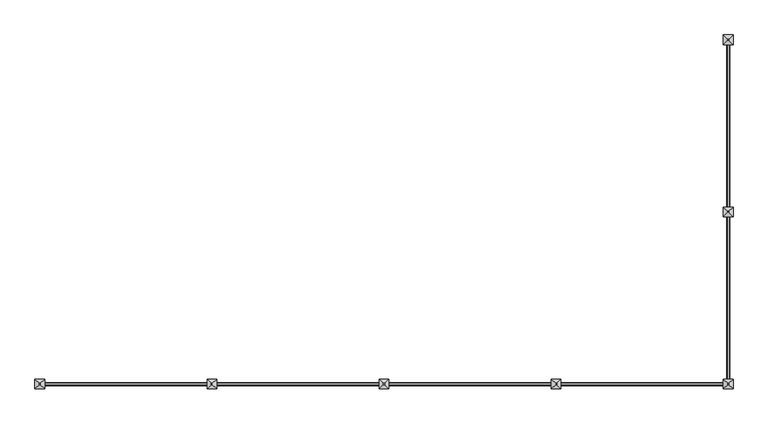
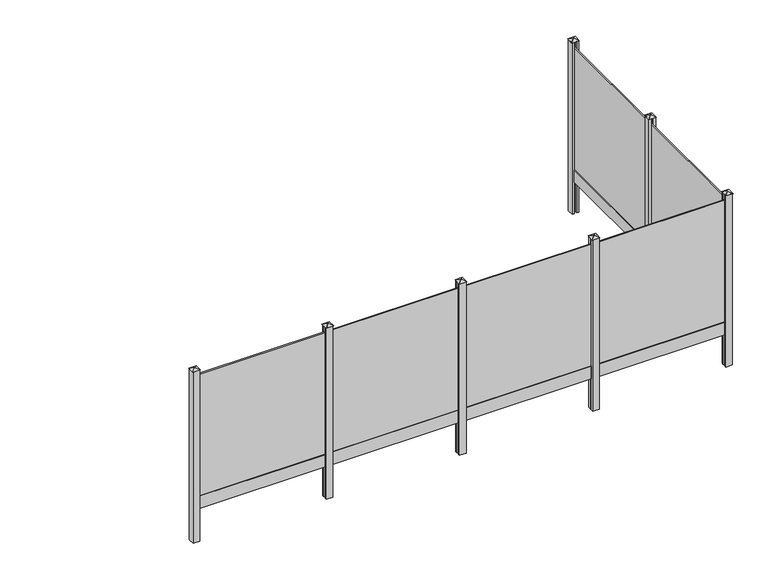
"""IFC4 building model written with IfcOpenShell, lengths in millimetres: railing geometry, Mehat - Railing - Plaque de Soubassement - Pour clôture composite - 197x20x3.5/2.3 cm."""

from ifc_helpers import new_model, si_unit, frame, origin, origin_with_axes, place, context, project, spatial, polyline, outline, extrude, faceted_brep, source, transform, mapped, element, save


def railing_0f99474d(model_context):
    return source(origin(), model_context, "Body", "SolidModel", [
        extrude(outline(polyline([(-27103.7483484, 8642.5056064), (-27120.7483484, 8642.5056064), (-27120.7483484, 10612.5056064), (-27103.7483484, 10612.5056064), (-27103.7483484, 8642.5056064)])), frame((0.0, 0.0, 200.0), z_axis=(0.0, 0.0, 1.0), x_axis=(1.0, 0.0, 0.0)), (0.0, 0.0, 1.0), 1950.0),
        extrude(outline(polyline([(-27129.7483484, 10612.5056064), (-27106.7483484, 10612.5056064), (-27094.7483484, 10587.5056064), (-27094.7483484, 8667.5056064), (-27106.7483484, 8642.5056064), (-27129.7483484, 8642.5056064), (-27129.7483484, 10612.5056064)])), origin_with_axes(), (0.0, 0.0, 1.0), 200.0),
        extrude(outline(polyline([(-27062.2483484, 8567.5056064), (-27094.7483484, 8567.5056064), (-27094.7483484, 8592.5056064), (-27129.7483484, 8592.5056064), (-27129.7483484, 8567.5056064), (-27162.2483484, 8567.5056064), (-27162.2483484, 8667.5056064), (-27129.7483484, 8667.5056064), (-27129.7483484, 8642.5056064), (-27094.7483484, 8642.5056064), (-27094.7483484, 8667.5056064), (-27062.2483484, 8667.5056064), (-27062.2483484, 8567.5056064)])), frame((0.0, 0.0, -500.0), z_axis=(0.0, 0.0, 1.0), x_axis=(1.0, 0.0, 0.0)), (0.0, 0.0, 1.0), 2750.0),
        faceted_brep([(-27118.6528945, 8623.8556064, 2275.4), (-27118.6528945, 8611.1556064, 2275.4), (-27105.9528945, 8611.1556064, 2275.4), (-27105.9528945, 8623.8556064, 2275.4), (-27168.5983484, 8673.8556064, 2250.0), (-27055.8983484, 8673.8556064, 2250.0), (-27055.8983484, 8561.1556064, 2250.0), (-27168.5983484, 8561.1556064, 2250.0)], [[[0, 1, 2, 3]], [[4, 5, 6, 7]], [[4, 0, 3, 5]], [[5, 3, 2, 6]], [[6, 2, 1, 7]], [[7, 1, 0, 4]]]),
        extrude(outline(polyline([(-27103.7483484, 6622.5056064), (-27120.7483484, 6622.5056064), (-27120.7483484, 8592.5056064), (-27103.7483484, 8592.5056064), (-27103.7483484, 6622.5056064)])), frame((0.0, 0.0, 200.0), z_axis=(0.0, 0.0, 1.0), x_axis=(1.0, 0.0, 0.0)), (0.0, 0.0, 1.0), 1950.0),
        extrude(outline(polyline([(-27129.7483484, 8592.5056064), (-27106.7483484, 8592.5056064), (-27094.7483484, 8567.5056064), (-27094.7483484, 6647.5056064), (-27106.7483484, 6622.5056064), (-27129.7483484, 6622.5056064), (-27129.7483484, 8592.5056064)])), origin_with_axes(), (0.0, 0.0, 1.0), 200.0),
        extrude(outline(polyline([(-29107.2483484, 6589.0056064), (-29107.2483484, 6606.0056064), (-27137.2483484, 6606.0056064), (-27137.2483484, 6589.0056064), (-29107.2483484, 6589.0056064)])), frame((0.0, 0.0, 200.0), z_axis=(0.0, 0.0, 1.0), x_axis=(1.0, 0.0, 0.0)), (0.0, 0.0, 1.0), 1950.0),
        extrude(outline(polyline([(-27137.2483484, 6615.0056064), (-27137.2483484, 6592.0056064), (-27162.2483484, 6580.0056064), (-29082.2483484, 6580.0056064), (-29107.2483484, 6592.0056064), (-29107.2483484, 6615.0056064), (-27137.2483484, 6615.0056064)])), origin_with_axes(), (0.0, 0.0, 1.0), 200.0),
        extrude(outline(polyline([(-29182.2483484, 6547.5056064), (-29182.2483484, 6580.0056064), (-29157.2483484, 6580.0056064), (-29157.2483484, 6615.0056064), (-29182.2483484, 6615.0056064), (-29182.2483484, 6647.5056064), (-29082.2483484, 6647.5056064), (-29082.2483484, 6615.0056064), (-29107.2483484, 6615.0056064), (-29107.2483484, 6580.0056064), (-29082.2483484, 6580.0056064), (-29082.2483484, 6547.5056064), (-29182.2483484, 6547.5056064)])), frame((0.0, 0.0, -500.0), z_axis=(0.0, 0.0, 1.0), x_axis=(1.0, 0.0, 0.0)), (0.0, 0.0, 1.0), 2750.0),
        faceted_brep([(-29125.8983484, 6603.9101525, 2275.4), (-29138.5983484, 6603.9101525, 2275.4), (-29138.5983484, 6591.2101525, 2275.4), (-29125.8983484, 6591.2101525, 2275.4), (-29075.8983484, 6653.8556064, 2250.0), (-29075.8983484, 6541.1556064, 2250.0), (-29188.5983484, 6541.1556064, 2250.0), (-29188.5983484, 6653.8556064, 2250.0)], [[[0, 1, 2, 3]], [[4, 5, 6, 7]], [[4, 0, 3, 5]], [[5, 3, 2, 6]], [[6, 2, 1, 7]], [[7, 1, 0, 4]]]),
        extrude(outline(polyline([(-31127.2483484, 6589.0056064), (-31127.2483484, 6606.0056064), (-29157.2483484, 6606.0056064), (-29157.2483484, 6589.0056064), (-31127.2483484, 6589.0056064)])), frame((0.0, 0.0, 200.0), z_axis=(0.0, 0.0, 1.0), x_axis=(1.0, 0.0, 0.0)), (0.0, 0.0, 1.0), 1950.0),
        extrude(outline(polyline([(-29157.2483484, 6615.0056064), (-29157.2483484, 6592.0056064), (-29182.2483484, 6580.0056064), (-31102.2483484, 6580.0056064), (-31127.2483484, 6592.0056064), (-31127.2483484, 6615.0056064), (-29157.2483484, 6615.0056064)])), origin_with_axes(), (0.0, 0.0, 1.0), 200.0),
        extrude(outline(polyline([(-31202.2483484, 6547.5056064), (-31202.2483484, 6580.0056064), (-31177.2483484, 6580.0056064), (-31177.2483484, 6615.0056064), (-31202.2483484, 6615.0056064), (-31202.2483484, 6647.5056064), (-31102.2483484, 6647.5056064), (-31102.2483484, 6615.0056064), (-31127.2483484, 6615.0056064), (-31127.2483484, 6580.0056064), (-31102.2483484, 6580.0056064), (-31102.2483484, 6547.5056064), (-31202.2483484, 6547.5056064)])), frame((0.0, 0.0, -500.0), z_axis=(0.0, 0.0, 1.0), x_axis=(1.0, 0.0, 0.0)), (0.0, 0.0, 1.0), 2750.0),
        faceted_brep([(-31145.8983484, 6603.9101525, 2275.4), (-31158.5983484, 6603.9101525, 2275.4), (-31158.5983484, 6591.2101525, 2275.4), (-31145.8983484, 6591.2101525, 2275.4), (-31095.8983484, 6653.8556064, 2250.0), (-31095.8983484, 6541.1556064, 2250.0), (-31208.5983484, 6541.1556064, 2250.0), (-31208.5983484, 6653.8556064, 2250.0)], [[[0, 1, 2, 3]], [[4, 5, 6, 7]], [[4, 0, 3, 5]], [[5, 3, 2, 6]], [[6, 2, 1, 7]], [[7, 1, 0, 4]]]),
        extrude(outline(polyline([(-33147.2483484, 6589.0056064), (-33147.2483484, 6606.0056064), (-31177.2483484, 6606.0056064), (-31177.2483484, 6589.0056064), (-33147.2483484, 6589.0056064)])), frame((0.0, 0.0, 200.0), z_axis=(0.0, 0.0, 1.0), x_axis=(1.0, 0.0, 0.0)), (0.0, 0.0, 1.0), 1950.0),
        extrude(outline(polyline([(-31177.2483484, 6615.0056064), (-31177.2483484, 6592.0056064), (-31202.2483484, 6580.0056064), (-33122.2483484, 6580.0056064), (-33147.2483484, 6592.0056064), (-33147.2483484, 6615.0056064), (-31177.2483484, 6615.0056064)])), origin_with_axes(), (0.0, 0.0, 1.0), 200.0),
        extrude(outline(polyline([(-33222.2483484, 6547.5056064), (-33222.2483484, 6580.0056064), (-33197.2483484, 6580.0056064), (-33197.2483484, 6615.0056064), (-33222.2483484, 6615.0056064), (-33222.2483484, 6647.5056064), (-33122.2483484, 6647.5056064), (-33122.2483484, 6615.0056064), (-33147.2483484, 6615.0056064), (-33147.2483484, 6580.0056064), (-33122.2483484, 6580.0056064), (-33122.2483484, 6547.5056064), (-33222.2483484, 6547.5056064)])), frame((0.0, 0.0, -500.0), z_axis=(0.0, 0.0, 1.0), x_axis=(1.0, 0.0, 0.0)), (0.0, 0.0, 1.0), 2750.0),
        faceted_brep([(-33165.8983484, 6603.9101525, 2275.4), (-33178.5983484, 6603.9101525, 2275.4), (-33178.5983484, 6591.2101525, 2275.4), (-33165.8983484, 6591.2101525, 2275.4), (-33115.8983484, 6653.8556064, 2250.0), (-33115.8983484, 6541.1556064, 2250.0), (-33228.5983484, 6541.1556064, 2250.0), (-33228.5983484, 6653.8556064, 2250.0)], [[[0, 1, 2, 3]], [[4, 5, 6, 7]], [[4, 0, 3, 5]], [[5, 3, 2, 6]], [[6, 2, 1, 7]], [[7, 1, 0, 4]]]),
        extrude(outline(polyline([(-35167.2483484, 6589.0056064), (-35167.2483484, 6606.0056064), (-33197.2483484, 6606.0056064), (-33197.2483484, 6589.0056064), (-35167.2483484, 6589.0056064)])), frame((0.0, 0.0, 200.0), z_axis=(0.0, 0.0, 1.0), x_axis=(1.0, 0.0, 0.0)), (0.0, 0.0, 1.0), 1950.0),
        extrude(outline(polyline([(-33197.2483484, 6615.0056064), (-33197.2483484, 6592.0056064), (-33222.2483484, 6580.0056064), (-35142.2483484, 6580.0056064), (-35167.2483484, 6592.0056064), (-35167.2483484, 6615.0056064), (-33197.2483484, 6615.0056064)])), origin_with_axes(), (0.0, 0.0, 1.0), 200.0),
        extrude(outline(polyline([(-27162.2483484, 6547.5056064), (-27162.2483484, 6580.0056064), (-27137.2483484, 6580.0056064), (-27137.2483484, 6615.0056064), (-27162.2483484, 6615.0056064), (-27162.2483484, 6647.5056064), (-27129.7483484, 6647.5056064), (-27129.7483484, 6622.5056064), (-27094.7483484, 6622.5056064), (-27094.7483484, 6647.5056064), (-27062.2483484, 6647.5056064), (-27062.2483484, 6547.5056064), (-27162.2483484, 6547.5056064)])), frame((0.0, 0.0, -500.0), z_axis=(0.0, 0.0, 1.0), x_axis=(1.0, 0.0, 0.0)), (0.0, 0.0, 1.0), 2750.0),
        faceted_brep([(-27105.8983484, 6603.9101525, 2275.4), (-27118.5983484, 6603.9101525, 2275.4), (-27118.5983484, 6591.2101525, 2275.4), (-27105.8983484, 6591.2101525, 2275.4), (-27055.8983484, 6653.8556064, 2250.0), (-27055.8983484, 6541.1556064, 2250.0), (-27168.5983484, 6541.1556064, 2250.0), (-27168.5983484, 6653.8556064, 2250.0)], [[[0, 1, 2, 3]], [[4, 5, 6, 7]], [[4, 0, 3, 5]], [[5, 3, 2, 6]], [[6, 2, 1, 7]], [[7, 1, 0, 4]]]),
        extrude(outline(polyline([(-27062.2483484, 10587.5056064), (-27094.7483484, 10587.5056064), (-27094.7483484, 10612.5056064), (-27129.7483484, 10612.5056064), (-27129.7483484, 10587.5056064), (-27162.2483484, 10587.5056064), (-27162.2483484, 10687.5056064), (-27062.2483484, 10687.5056064), (-27062.2483484, 10587.5056064)])), frame((0.0, 0.0, -500.0), z_axis=(0.0, 0.0, 1.0), x_axis=(1.0, 0.0, 0.0)), (0.0, 0.0, 1.0), 2750.0),
        faceted_brep([(-27118.6528945, 10643.8556064, 2275.4), (-27118.6528945, 10631.1556064, 2275.4), (-27105.9528945, 10631.1556064, 2275.4), (-27105.9528945, 10643.8556064, 2275.4), (-27168.5983484, 10693.8556064, 2250.0), (-27055.8983484, 10693.8556064, 2250.0), (-27055.8983484, 10581.1556064, 2250.0), (-27168.5983484, 10581.1556064, 2250.0)], [[[0, 1, 2, 3]], [[4, 5, 6, 7]], [[4, 0, 3, 5]], [[5, 3, 2, 6]], [[6, 2, 1, 7]], [[7, 1, 0, 4]]]),
        extrude(outline(polyline([(-35242.2483484, 6547.5056064), (-35242.2483484, 6647.5056064), (-35142.2483484, 6647.5056064), (-35142.2483484, 6615.0056064), (-35167.2483484, 6615.0056064), (-35167.2483484, 6580.0056064), (-35142.2483484, 6580.0056064), (-35142.2483484, 6547.5056064), (-35242.2483484, 6547.5056064)])), frame((0.0, 0.0, -500.0), z_axis=(0.0, 0.0, 1.0), x_axis=(1.0, 0.0, 0.0)), (0.0, 0.0, 1.0), 2750.0),
        faceted_brep([(-35185.8983484, 6603.9101525, 2275.4), (-35198.5983484, 6603.9101525, 2275.4), (-35198.5983484, 6591.2101525, 2275.4), (-35185.8983484, 6591.2101525, 2275.4), (-35135.8983484, 6653.8556064, 2250.0), (-35135.8983484, 6541.1556064, 2250.0), (-35248.5983484, 6541.1556064, 2250.0), (-35248.5983484, 6653.8556064, 2250.0)], [[[0, 1, 2, 3]], [[4, 5, 6, 7]], [[4, 0, 3, 5]], [[5, 3, 2, 6]], [[6, 2, 1, 7]], [[7, 1, 0, 4]]]),
    ])


if __name__ == "__main__":
    model = new_model("IFC4")
    model_context = context("Model", 3, world=origin())
    ifc_project = project(units=[si_unit("LENGTHUNIT", "METRE", prefix="MILLI")], contexts=[model_context])
    site = spatial("IfcSite", under=ifc_project)
    building = spatial("IfcBuilding", under=site)
    placement = place(None, origin())
    railing_shape = railing_0f99474d(model_context)
    element("IfcRailing", 1, ObjectType="Mehat - Railing - Plaque de Soubassement - Pour clôture composite - 197x20x3.5/2.3 cm", at=placement, inside=building, context=model_context, shape_type="MappedRepresentation", body=[
        mapped(railing_shape, transform((0.0, 0.0, 0.0), x_axis=(1.0, 0.0, 0.0), y_axis=(0.0, 1.0, 0.0), z_axis=(0.0, 0.0, 1.0))),
    ])
    save(model, "model.ifc")
